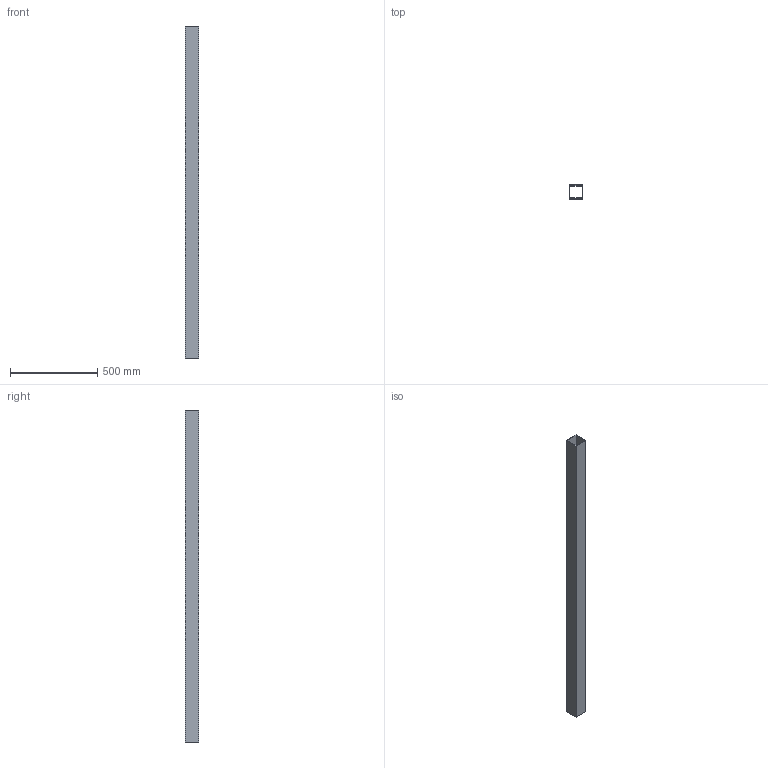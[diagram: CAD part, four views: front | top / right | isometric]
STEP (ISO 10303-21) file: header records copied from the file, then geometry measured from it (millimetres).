
FILE_DESCRIPTION(('Open CASCADE Model'),'2;1');
FILE_NAME('Open CASCADE Shape Model','2026-10-15T15:10:04',('Author'),( 'Open CASCADE'),'Open CASCADE STEP processor 8.0','Open CASCADE 8.0' ,'Unknown');
FILE_SCHEMA(('AUTOMOTIVE_DESIGN { 1 0 10303 214 1 1 1 1 }'));
Length unit declared in the file: millimetre
Products named in the file (1): SHS80x80x4_L1908000_P05 19
Bounding box: 80 x 80 x 1908 mm (x, y, z)
Volume: 2320128 mm3; surface area: 1162496 mm2
Topology: 1 solids, 1 shells, 10 faces, 24 edges, 16 vertices
Faces by surface type: plane 10
Entity records: 614 total; most frequent: CARTESIAN_POINT 99, DIRECTION 94, LINE 72, VECTOR 72, ORIENTED_EDGE 48, PCURVE 48, DEFINITIONAL_REPRESENTATION 48, EDGE_CURVE 24
